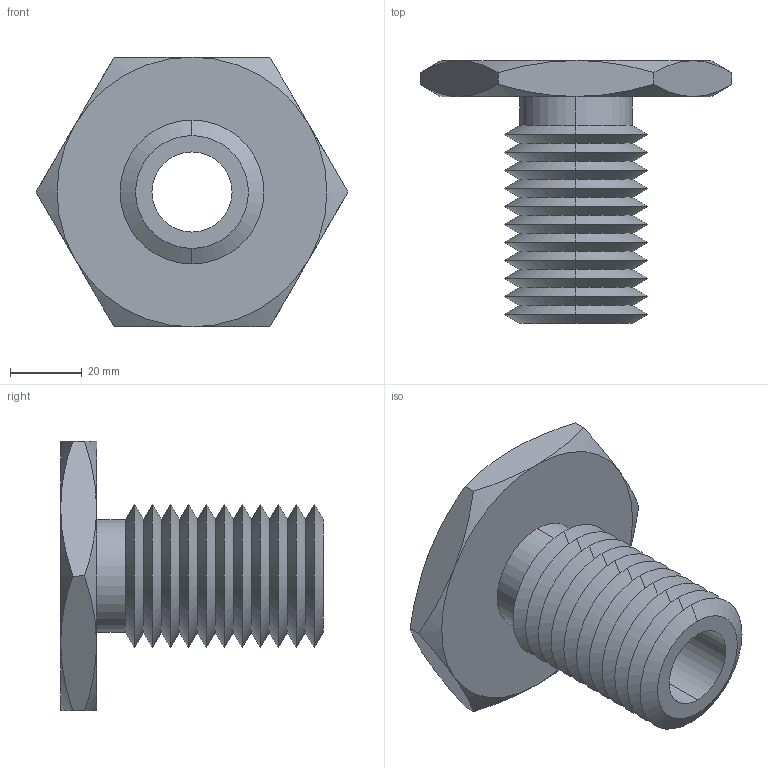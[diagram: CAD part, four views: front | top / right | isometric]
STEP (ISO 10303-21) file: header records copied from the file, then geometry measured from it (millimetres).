
FILE_DESCRIPTION (( 'STEP AP203' ), '1' );
FILE_NAME ('63302.W0042_0,87 UNC-9.step', '2013-12-08T11:15:37', ( 'User' ), ( '' ), 'SwSTEP 2.0', 'SolidWorks 2009', '' );
FILE_SCHEMA (( 'CONFIG_CONTROL_DESIGN' ));
Length unit declared in the file: millimetre
Products named in the file (1): 63302.W0042_0,87 UNC-9
Bounding box: 86.6 x 73 x 75 mm (x, y, z)
Volume: 80565.2 mm3; surface area: 29215.3 mm2
Topology: 1 solids, 1 shells, 71 faces, 146 edges, 78 vertices
Faces by surface type: cone 58, plane 9, cylinder 4
Entity records: 2039 total; most frequent: CARTESIAN_POINT 480, DIRECTION 332, ORIENTED_EDGE 292, EDGE_CURVE 146, AXIS2_PLACEMENT_3D 138, VERTEX_POINT 78, EDGE_LOOP 74, ADVANCED_FACE 71
